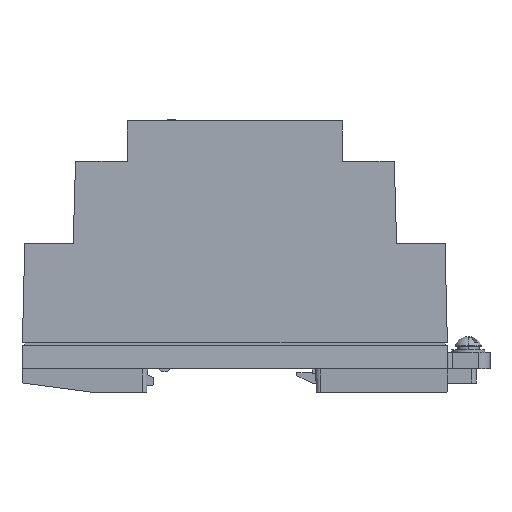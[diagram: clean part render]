
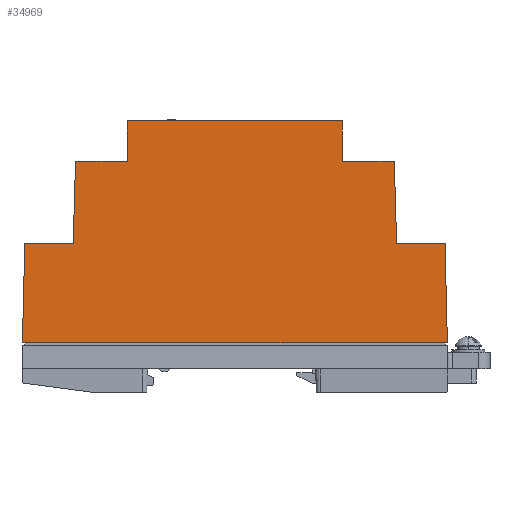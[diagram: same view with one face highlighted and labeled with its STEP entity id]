
A CAD part, left-side view. The second image highlights one B-rep face of the part: STEP entity #34969.
In plain terms, the highlighted planar face has unit normal (-1, 0, 0) as drawn and (0, 0, 1) by its records, which use the part's own axes.
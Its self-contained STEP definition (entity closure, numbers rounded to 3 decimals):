
#6 = ORIENTED_EDGE ( 'NONE', *, *, #11070, .T. ) ;
#36 = VECTOR ( 'NONE', #21413, 1000. ) ;
#1060 = EDGE_CURVE ( 'NONE', #8192, #46770, #14135, .T. ) ;
#1302 = EDGE_CURVE ( 'NONE', #10779, #34054, #29548, .T. ) ;
#1338 = LINE ( 'NONE', #28902, #9122 ) ;
#3080 = LINE ( 'NONE', #8431, #42388 ) ;
#3133 = ORIENTED_EDGE ( 'NONE', *, *, #16916, .T. ) ;
#3466 = VECTOR ( 'NONE', #22225, 1000. ) ;
#4197 = VECTOR ( 'NONE', #9825, 1000. ) ;
#4448 = LINE ( 'NONE', #32611, #24662 ) ;
#4650 = LINE ( 'NONE', #41266, #3466 ) ;
#4695 = CARTESIAN_POINT ( 'NONE',  ( -34.25, 21., 0. ) ) ;
#5113 = CARTESIAN_POINT ( 'NONE',  ( 45., 0., 0. ) ) ;
#5829 = CARTESIAN_POINT ( 'NONE',  ( 22.75, 47., 0. ) ) ;
#6485 = PLANE ( 'NONE',  #22748 ) ;
#6653 = ORIENTED_EDGE ( 'NONE', *, *, #17245, .T. ) ;
#7953 = CARTESIAN_POINT ( 'NONE',  ( 33.75, 38.5, 0. ) ) ;
#8185 = FACE_OUTER_BOUND ( 'NONE', #9498, .T. ) ;
#8192 = VERTEX_POINT ( 'NONE', #7953 ) ;
#8431 = CARTESIAN_POINT ( 'NONE',  ( 44.5, 21., 0. ) ) ;
#9122 = VECTOR ( 'NONE', #25063, 1000. ) ;
#9248 = DIRECTION ( 'NONE',  ( 0., 1., 0. ) ) ;
#9498 = EDGE_LOOP ( 'NONE', ( #33951, #47565, #43637, #16548, #19004, #43830, #6, #43778, #6653, #21055, #45619, #3133 ) ) ;
#9825 = DIRECTION ( 'NONE',  ( 0.029, 1., 0. ) ) ;
#9898 = DIRECTION ( 'NONE',  ( 1., 0., 0. ) ) ;
#9979 = CARTESIAN_POINT ( 'NONE',  ( -22.75, 47., 0. ) ) ;
#10285 = DIRECTION ( 'NONE',  ( 0., 0., -1. ) ) ;
#10779 = VERTEX_POINT ( 'NONE', #23595 ) ;
#11070 = EDGE_CURVE ( 'NONE', #33212, #10779, #29161, .T. ) ;
#11349 = VECTOR ( 'NONE', #15936, 1000. ) ;
#12222 = DIRECTION ( 'NONE',  ( -1., 0., 0. ) ) ;
#12768 = CARTESIAN_POINT ( 'NONE',  ( -33.75, 38.5, 0. ) ) ;
#14135 = LINE ( 'NONE', #15113, #34351 ) ;
#15113 = CARTESIAN_POINT ( 'NONE',  ( 33.75, 38.5, 0. ) ) ;
#15936 = DIRECTION ( 'NONE',  ( -1., 0., 0. ) ) ;
#16147 = VERTEX_POINT ( 'NONE', #5829 ) ;
#16548 = ORIENTED_EDGE ( 'NONE', *, *, #47483, .F. ) ;
#16916 = EDGE_CURVE ( 'NONE', #46770, #16147, #1338, .T. ) ;
#17245 = EDGE_CURVE ( 'NONE', #34054, #41554, #3080, .T. ) ;
#18329 = LINE ( 'NONE', #32116, #38630 ) ;
#18346 = EDGE_CURVE ( 'NONE', #39538, #43481, #18329, .T. ) ;
#18788 = CARTESIAN_POINT ( 'NONE',  ( -44.5, 21., 0. ) ) ;
#19004 = ORIENTED_EDGE ( 'NONE', *, *, #41119, .F. ) ;
#19555 = CARTESIAN_POINT ( 'NONE',  ( -33.75, 38.5, 0. ) ) ;
#20142 = EDGE_CURVE ( 'NONE', #41554, #8192, #4650, .T. ) ;
#20518 = DIRECTION ( 'NONE',  ( -0.024, 1., 0. ) ) ;
#20735 = CARTESIAN_POINT ( 'NONE',  ( -45., 0., 0. ) ) ;
#21055 = ORIENTED_EDGE ( 'NONE', *, *, #20142, .T. ) ;
#21413 = DIRECTION ( 'NONE',  ( 1., 0., 0. ) ) ;
#22096 = VECTOR ( 'NONE', #39770, 1000. ) ;
#22225 = DIRECTION ( 'NONE',  ( -0.029, 1., 0. ) ) ;
#22736 = DIRECTION ( 'NONE',  ( -1., 0., 0. ) ) ;
#22748 = AXIS2_PLACEMENT_3D ( 'NONE', #47734, #10285, #36874 ) ;
#23304 = LINE ( 'NONE', #20735, #22096 ) ;
#23595 = CARTESIAN_POINT ( 'NONE',  ( 45., 0., 0. ) ) ;
#24235 = DIRECTION ( 'NONE',  ( 1., 0., 0. ) ) ;
#24662 = VECTOR ( 'NONE', #9898, 1000. ) ;
#25063 = DIRECTION ( 'NONE',  ( 0., 1., 0. ) ) ;
#26063 = CARTESIAN_POINT ( 'NONE',  ( 22.75, 38.5, 0. ) ) ;
#27107 = EDGE_CURVE ( 'NONE', #33212, #43071, #23304, .T. ) ;
#27935 = VECTOR ( 'NONE', #24235, 1000. ) ;
#27944 = CARTESIAN_POINT ( 'NONE',  ( 34.25, 21., 0. ) ) ;
#28641 = CARTESIAN_POINT ( 'NONE',  ( 44.5, 21., 0. ) ) ;
#28902 = CARTESIAN_POINT ( 'NONE',  ( 22.75, 38.5, 0. ) ) ;
#29161 = LINE ( 'NONE', #44287, #36 ) ;
#29548 = LINE ( 'NONE', #5113, #48660 ) ;
#29698 = EDGE_CURVE ( 'NONE', #30567, #39538, #39287, .T. ) ;
#30567 = VERTEX_POINT ( 'NONE', #19555 ) ;
#31345 = CARTESIAN_POINT ( 'NONE',  ( -45., 0., 0. ) ) ;
#32116 = CARTESIAN_POINT ( 'NONE',  ( -22.75, 38.5, 0. ) ) ;
#32540 = CARTESIAN_POINT ( 'NONE',  ( -34.25, 21., 0. ) ) ;
#32611 = CARTESIAN_POINT ( 'NONE',  ( -44.5, 21., 0. ) ) ;
#33212 = VERTEX_POINT ( 'NONE', #31345 ) ;
#33951 = ORIENTED_EDGE ( 'NONE', *, *, #47323, .T. ) ;
#34054 = VERTEX_POINT ( 'NONE', #28641 ) ;
#34351 = VECTOR ( 'NONE', #22736, 1000. ) ;
#34969 = ADVANCED_FACE ( 'NONE', ( #8185 ), #6485, .F. ) ;
#35074 = CARTESIAN_POINT ( 'NONE',  ( 0., 47., 0. ) ) ;
#36874 = DIRECTION ( 'NONE',  ( -1., 0., 0. ) ) ;
#37544 = VERTEX_POINT ( 'NONE', #4695 ) ;
#38630 = VECTOR ( 'NONE', #9248, 1000. ) ;
#39287 = LINE ( 'NONE', #12768, #27935 ) ;
#39538 = VERTEX_POINT ( 'NONE', #40175 ) ;
#39770 = DIRECTION ( 'NONE',  ( 0.024, 1., 0. ) ) ;
#40175 = CARTESIAN_POINT ( 'NONE',  ( -22.75, 38.5, 0. ) ) ;
#41119 = EDGE_CURVE ( 'NONE', #43071, #37544, #4448, .T. ) ;
#41266 = CARTESIAN_POINT ( 'NONE',  ( 34.25, 21., 0. ) ) ;
#41554 = VERTEX_POINT ( 'NONE', #27944 ) ;
#41727 = LINE ( 'NONE', #35074, #11349 ) ;
#42294 = LINE ( 'NONE', #32540, #4197 ) ;
#42388 = VECTOR ( 'NONE', #12222, 1000. ) ;
#43071 = VERTEX_POINT ( 'NONE', #18788 ) ;
#43481 = VERTEX_POINT ( 'NONE', #9979 ) ;
#43637 = ORIENTED_EDGE ( 'NONE', *, *, #29698, .F. ) ;
#43778 = ORIENTED_EDGE ( 'NONE', *, *, #1302, .T. ) ;
#43830 = ORIENTED_EDGE ( 'NONE', *, *, #27107, .F. ) ;
#44287 = CARTESIAN_POINT ( 'NONE',  ( 0., 0., 0. ) ) ;
#45619 = ORIENTED_EDGE ( 'NONE', *, *, #1060, .T. ) ;
#46770 = VERTEX_POINT ( 'NONE', #26063 ) ;
#47323 = EDGE_CURVE ( 'NONE', #16147, #43481, #41727, .T. ) ;
#47483 = EDGE_CURVE ( 'NONE', #37544, #30567, #42294, .T. ) ;
#47565 = ORIENTED_EDGE ( 'NONE', *, *, #18346, .F. ) ;
#47734 = CARTESIAN_POINT ( 'NONE',  ( 0., 47., 0. ) ) ;
#48660 = VECTOR ( 'NONE', #20518, 1000. ) ;
